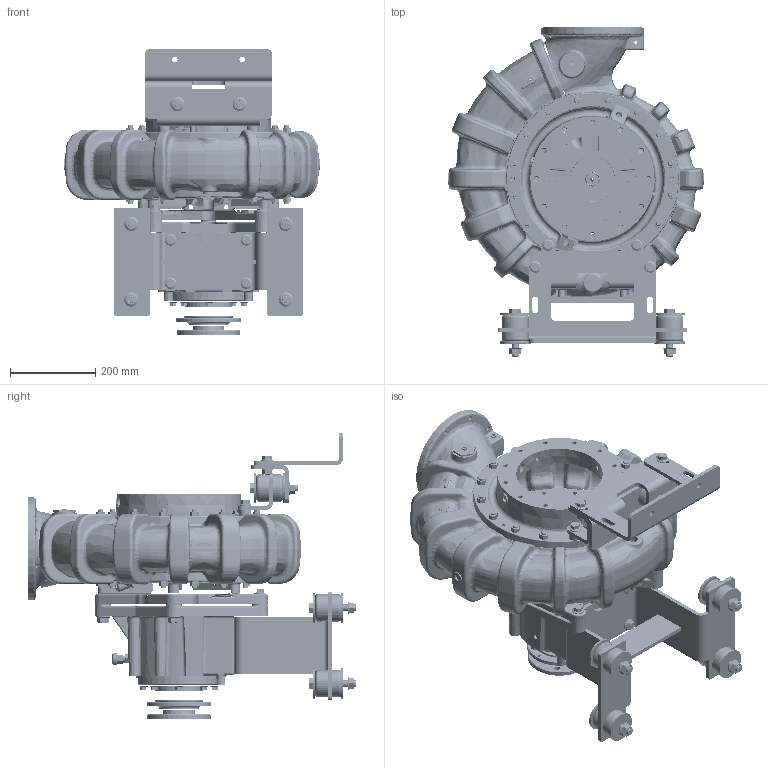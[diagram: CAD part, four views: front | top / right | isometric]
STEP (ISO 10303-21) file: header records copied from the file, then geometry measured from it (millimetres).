
FILE_DESCRIPTION (( 'STEP AP203' ), '1' );
FILE_NAME ('dzd0040.STEP', '2023-06-21T15:11:02', ( '' ), ( '' ), 'SwSTEP 2.0', 'SolidWorks 2022', '' );
FILE_SCHEMA (( 'CONFIG_CONTROL_DESIGN' ));
Products named in the file (1): dzd0040
Bounding box: 603.44 x 772.34 x 673.15 mm (x, y, z)
Surface area: 2449249 mm2 (no closed solid volume)
Topology: 0 solids, 196 shells, 3614 faces, 11265 edges, 7610 vertices
Faces by surface type: bspline 1260, plane 912, cylinder 648, cone 565, torus 202, sphere 27
Entity records: 229994 total; most frequent: CARTESIAN_POINT 145399, ORIENTED_EDGE 18513, DIRECTION 12883, EDGE_CURVE 11264, VERTEX_POINT 7610, B_SPLINE_CURVE_WITH_KNOTS 5728, AXIS2_PLACEMENT_3D 5142, EDGE_LOOP 3982
